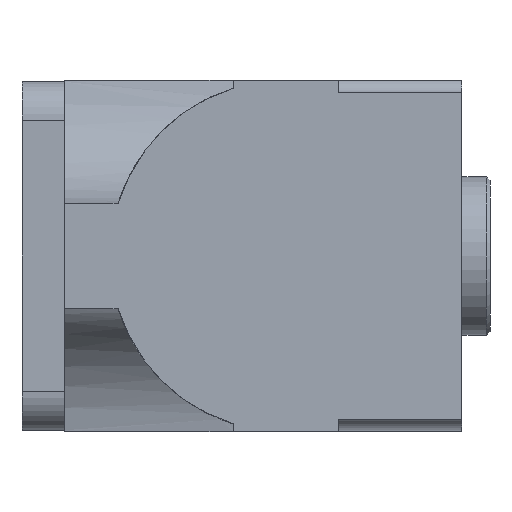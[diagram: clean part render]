
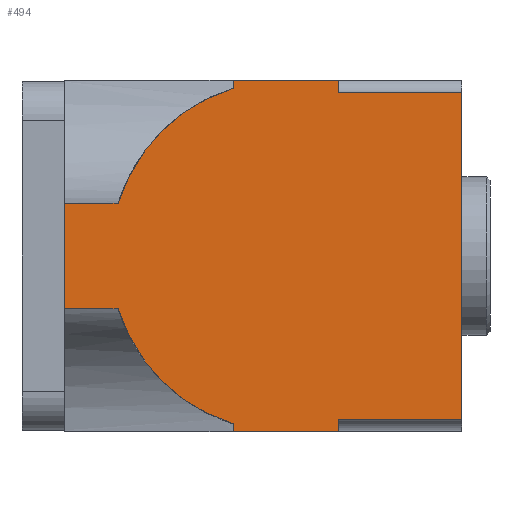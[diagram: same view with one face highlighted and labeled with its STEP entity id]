
A CAD part, front view. The second image highlights one B-rep face of the part: STEP entity #494.
In plain terms, the highlighted planar face has unit normal (0, -1, 0).
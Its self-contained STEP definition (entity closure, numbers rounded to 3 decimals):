
#494 = ADVANCED_FACE( '', ( #1067 ), #1068, .F. );
#1067 = FACE_OUTER_BOUND( '', #1690, .T. );
#1068 = PLANE( '', #1691 );
#1690 = EDGE_LOOP( '', ( #3013, #3014, #3015, #3016, #3017, #3018, #3019, #3020, #3021, #3022, #3023, #3024, #3025, #3026 ) );
#1691 = AXIS2_PLACEMENT_3D( '', #3027, #3028, #3029 );
#3013 = ORIENTED_EDGE( '', *, *, #3384, .F. );
#3014 = ORIENTED_EDGE( '', *, *, #3376, .F. );
#3015 = ORIENTED_EDGE( '', *, *, #3700, .T. );
#3016 = ORIENTED_EDGE( '', *, *, #3676, .F. );
#3017 = ORIENTED_EDGE( '', *, *, #3534, .F. );
#3018 = ORIENTED_EDGE( '', *, *, #3814, .T. );
#3019 = ORIENTED_EDGE( '', *, *, #3815, .F. );
#3020 = ORIENTED_EDGE( '', *, *, #3816, .F. );
#3021 = ORIENTED_EDGE( '', *, *, #3714, .F. );
#3022 = ORIENTED_EDGE( '', *, *, #3596, .T. );
#3023 = ORIENTED_EDGE( '', *, *, #3553, .T. );
#3024 = ORIENTED_EDGE( '', *, *, #3724, .F. );
#3025 = ORIENTED_EDGE( '', *, *, #3808, .T. );
#3026 = ORIENTED_EDGE( '', *, *, #3345, .T. );
#3027 = CARTESIAN_POINT( '', ( 125., -50., 50. ) );
#3028 = DIRECTION( '', ( 0., 1., 0. ) );
#3029 = DIRECTION( '', ( 0., 0., 1. ) );
#3345 = EDGE_CURVE( '', #3950, #3948, #3951, .T. );
#3376 = EDGE_CURVE( '', #4003, #4004, #4005, .T. );
#3384 = EDGE_CURVE( '', #4004, #3948, #4016, .T. );
#3534 = EDGE_CURVE( '', #4258, #4259, #4260, .T. );
#3553 = EDGE_CURVE( '', #4287, #4285, #4288, .T. );
#3596 = EDGE_CURVE( '', #4356, #4287, #4357, .T. );
#3676 = EDGE_CURVE( '', #4259, #4472, #4473, .T. );
#3700 = EDGE_CURVE( '', #4003, #4472, #4501, .T. );
#3714 = EDGE_CURVE( '', #4356, #4517, #4518, .T. );
#3724 = EDGE_CURVE( '', #4527, #4285, #4529, .T. );
#3808 = EDGE_CURVE( '', #4527, #3950, #4633, .T. );
#3814 = EDGE_CURVE( '', #4258, #4639, #4640, .T. );
#3815 = EDGE_CURVE( '', #4641, #4639, #4642, .T. );
#3816 = EDGE_CURVE( '', #4517, #4641, #4643, .T. );
#3948 = VERTEX_POINT( '', #4828 );
#3950 = VERTEX_POINT( '', #4830 );
#3951 = LINE( '', #4831, #4832 );
#4003 = VERTEX_POINT( '', #4895 );
#4004 = VERTEX_POINT( '', #4896 );
#4005 = CIRCLE( '', #4897, 50. );
#4016 = LINE( '', #4945, #4946 );
#4258 = VERTEX_POINT( '', #5279 );
#4259 = VERTEX_POINT( '', #5280 );
#4260 = LINE( '', #5281, #5282 );
#4285 = VERTEX_POINT( '', #5312 );
#4287 = VERTEX_POINT( '', #5315 );
#4288 = LINE( '', #5316, #5317 );
#4356 = VERTEX_POINT( '', #5408 );
#4357 = LINE( '', #5409, #5410 );
#4472 = VERTEX_POINT( '', #5624 );
#4473 = LINE( '', #5625, #5626 );
#4501 = LINE( '', #5664, #5665 );
#4517 = VERTEX_POINT( '', #5684 );
#4518 = LINE( '', #5685, #5686 );
#4527 = VERTEX_POINT( '', #5700 );
#4529 = CIRCLE( '', #5735, 50. );
#4633 = LINE( '', #5878, #5879 );
#4639 = VERTEX_POINT( '', #5887 );
#4640 = LINE( '', #5888, #5889 );
#4641 = VERTEX_POINT( '', #5890 );
#4642 = LINE( '', #5891, #5892 );
#4643 = LINE( '', #5893, #5894 );
#4828 = CARTESIAN_POINT( '', ( 12., -50., -15. ) );
#4830 = CARTESIAN_POINT( '', ( 12., -50., 15. ) );
#4831 = CARTESIAN_POINT( '', ( 12., -50., 50. ) );
#4832 = VECTOR( '', #6000, 1000. );
#4895 = CARTESIAN_POINT( '', ( 60., -50., -47.697 ) );
#4896 = CARTESIAN_POINT( '', ( 27.303, -50., -15. ) );
#4897 = AXIS2_PLACEMENT_3D( '', #6051, #6052, #6053 );
#4945 = CARTESIAN_POINT( '', ( 60., -50., -15. ) );
#4946 = VECTOR( '', #6058, 1000. );
#5279 = CARTESIAN_POINT( '', ( 90., -50., -46.5 ) );
#5280 = CARTESIAN_POINT( '', ( 90., -50., -50. ) );
#5281 = CARTESIAN_POINT( '', ( 90., -50., 50. ) );
#5282 = VECTOR( '', #6235, 1000. );
#5312 = CARTESIAN_POINT( '', ( 60., -50., 47.697 ) );
#5315 = CARTESIAN_POINT( '', ( 60., -50., 50. ) );
#5316 = CARTESIAN_POINT( '', ( 60., -50., 50. ) );
#5317 = VECTOR( '', #6260, 1000. );
#5408 = CARTESIAN_POINT( '', ( 90., -50., 50. ) );
#5409 = CARTESIAN_POINT( '', ( 125., -50., 50. ) );
#5410 = VECTOR( '', #6311, 1000. );
#5624 = CARTESIAN_POINT( '', ( 60., -50., -50. ) );
#5625 = CARTESIAN_POINT( '', ( 125., -50., -50. ) );
#5626 = VECTOR( '', #6405, 1000. );
#5664 = CARTESIAN_POINT( '', ( 60., -50., 50. ) );
#5665 = VECTOR( '', #6425, 1000. );
#5684 = CARTESIAN_POINT( '', ( 90., -50., 46.5 ) );
#5685 = CARTESIAN_POINT( '', ( 90., -50., 50. ) );
#5686 = VECTOR( '', #6438, 1000. );
#5700 = CARTESIAN_POINT( '', ( 27.303, -50., 15. ) );
#5735 = AXIS2_PLACEMENT_3D( '', #6444, #6445, #6446 );
#5878 = CARTESIAN_POINT( '', ( 60., -50., 15. ) );
#5879 = VECTOR( '', #6526, 1000. );
#5887 = CARTESIAN_POINT( '', ( 125., -50., -46.5 ) );
#5888 = CARTESIAN_POINT( '', ( 90., -50., -46.5 ) );
#5889 = VECTOR( '', #6529, 1000. );
#5890 = CARTESIAN_POINT( '', ( 125., -50., 46.5 ) );
#5891 = CARTESIAN_POINT( '', ( 125., -50., 50. ) );
#5892 = VECTOR( '', #6530, 1000. );
#5893 = CARTESIAN_POINT( '', ( 90., -50., 46.5 ) );
#5894 = VECTOR( '', #6531, 1000. );
#6000 = DIRECTION( '', ( 0., 0., -1. ) );
#6051 = CARTESIAN_POINT( '', ( 75., -50., 0. ) );
#6052 = DIRECTION( '', ( 0., 1., 0. ) );
#6053 = DIRECTION( '', ( 1., 0., 0. ) );
#6058 = DIRECTION( '', ( -1., 0., 0. ) );
#6235 = DIRECTION( '', ( 0., 0., -1. ) );
#6260 = DIRECTION( '', ( 0., 0., -1. ) );
#6311 = DIRECTION( '', ( -1., 0., 0. ) );
#6405 = DIRECTION( '', ( -1., 0., 0. ) );
#6425 = DIRECTION( '', ( 0., 0., -1. ) );
#6438 = DIRECTION( '', ( 0., 0., -1. ) );
#6444 = CARTESIAN_POINT( '', ( 75., -50., 0. ) );
#6445 = DIRECTION( '', ( 0., 1., 0. ) );
#6446 = DIRECTION( '', ( 1., 0., 0. ) );
#6526 = DIRECTION( '', ( -1., 0., 0. ) );
#6529 = DIRECTION( '', ( 1., 0., 0. ) );
#6530 = DIRECTION( '', ( 0., 0., -1. ) );
#6531 = DIRECTION( '', ( 1., 0., 0. ) );
